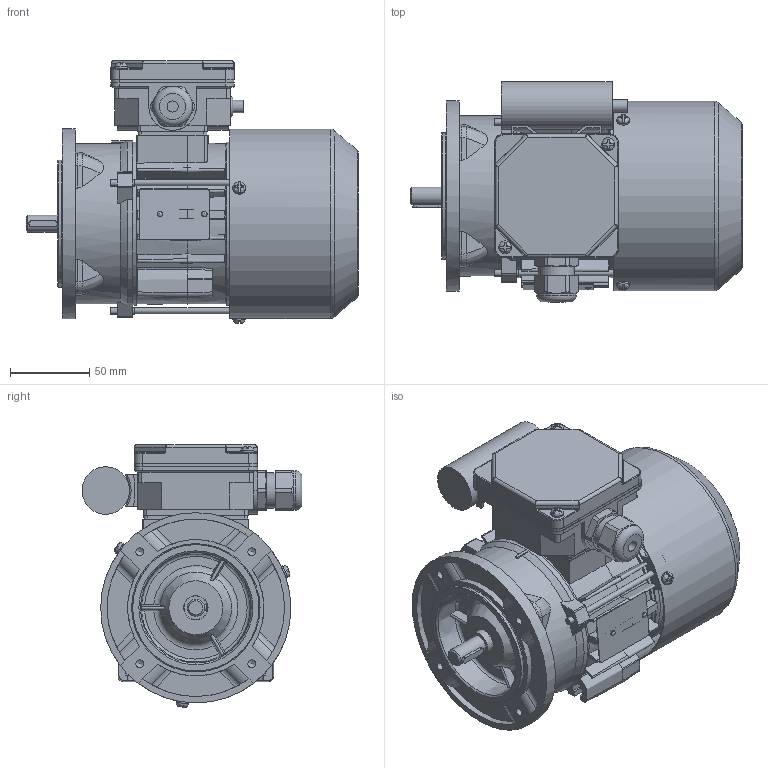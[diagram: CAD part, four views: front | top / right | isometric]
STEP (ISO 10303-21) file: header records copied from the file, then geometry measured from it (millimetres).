
FILE_DESCRIPTION( ( 'Unknown' ), '1' );
FILE_NAME( 'G:/Poczta Tk-1/STP/w.m.63/SEh63/SE(M)Kh63-B1.stp', 'Unknown', ( 'K. Szlosek' ), ( 'BESEL S.A.' ), 'PSStep 17.0.49', 'Unknown', ' ' );
FILE_SCHEMA( ( 'AUTOMOTIVE_DESIGN { 1 0 10303 214 1 1 1 1 }' ) );
Length unit declared in the file: millimetre
Products named in the file (32): Assem1; K3-5320 Tarcza łożyskowa P Sg63; K4-2320 Uszczelka nr 1 Sh71,80; Wpust A4x4x18; K4-2820 Uszczelka nr 2 Sh71,80; K2-0860 Pokrywka skrzynki zaciskowej; Wkręt samogwintujący M4x16; K4-0898 Tulejka uszczelniająca; Kondensator zb 8-10uF; K2-1769 Przewietrznik Sg63; Wkręt samogwintujący M4x8; K3-9974 wał Sh63-A,B standard; K3-9973 Kadłub ze stojanem wykończonym Sh63-B; K3-9440 Podstawa  skrzynki zaciskowej SEhR71-D; K3-1974 Uchwyt kondensatora (mały); K3-5321 osłona przewietrznika Sg63; K1-1111 Tarcza kołnierzowa w.m. 63 IMB14_1; Dławnica M20x1,5; Łożysko 6202; Śruba ściągająca E_M4x85; Tabliczka znamionowa 32x44; Nitokołek A 2x6
Assembly tree (48 placements, depth 2):
  Assem1
    K3-5320 Tarcza łożyskowa P Sg63
    K4-2320 Uszczelka nr 1 Sh71,80
    Wpust A4x4x18
    K4-2820 Uszczelka nr 2 Sh71,80
    K2-0860 Pokrywka skrzynki zaciskowej
    Wkręt samogwintujący M4x16  x2
    K4-0898 Tulejka uszczelniająca
    Kondensator zb 8-10uF
    K2-1769 Przewietrznik Sg63
    Wkręt samogwintujący M4x8  x3
    K3-9974 wał Sh63-A,B standard
    K3-9973 Kadłub ze stojanem wykończonym Sh63-B
    K3-9440 Podstawa  skrzynki zaciskowej SEhR71-D
    K3-1974 Uchwyt kondensatora (mały)
    K3-5321 osłona przewietrznika Sg63
    K1-1111 Tarcza kołnierzowa w.m. 63 IMB14_1
    Dławnica M20x1,5
    Łożysko 6202  x2
    Łożysko 6202  x2
    Łożysko 6202  x2
    Łożysko 6202  x2
    Łożysko 6202  x2
    Łożysko 6202  x2
    Łożysko 6202  x2
    Łożysko 6202  x2
    Łożysko 6202  x2
    Łożysko 6202  x2
    Łożysko 6202  x2
    Śruba ściągająca E_M4x85  x3
    Tabliczka znamionowa 32x44
    Nitokołek A 2x6  x2
Bounding box: 209.5 x 138.82 x 165.9 mm (x, y, z)
Volume: 556594.6 mm3; surface area: 360798.4 mm2
Topology: 48 solids, 66 shells, 1971 faces, 5406 edges, 3509 vertices
Faces by surface type: plane 969, cylinder 580, cone 130, torus 130, bspline 123, sphere 39
Full cylindrical faces by diameter (mm): 2 x2, 2.4 x2, 3 x1, 3.3 x3, 3.5 x2, 3.7 x10, 4 x8, 4.5 x4, 4.6 x1, 4.8 x4, 5 x8, 6.5 x1, 7 x4, 8 x7, 10 x2, 11 x1, 12.9 x1, 13.1 x1, 13.5 x1, 15 x4, 15.4 x2, 18.38 x1, 18.5 x1, 19 x2, 19.5 x1, 20 x2, 20.1 x1, 21.52 x4, 22.3 x1, 25 x1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
Entity records: 85281 total; most frequent: CARTESIAN_POINT 26873, ORIENTED_EDGE 9336, DIRECTION 8938, EDGE_CURVE 4668, AXIS2_PLACEMENT_3D 3326, VERTEX_POINT 3179, LINE 2286, VECTOR 2286
